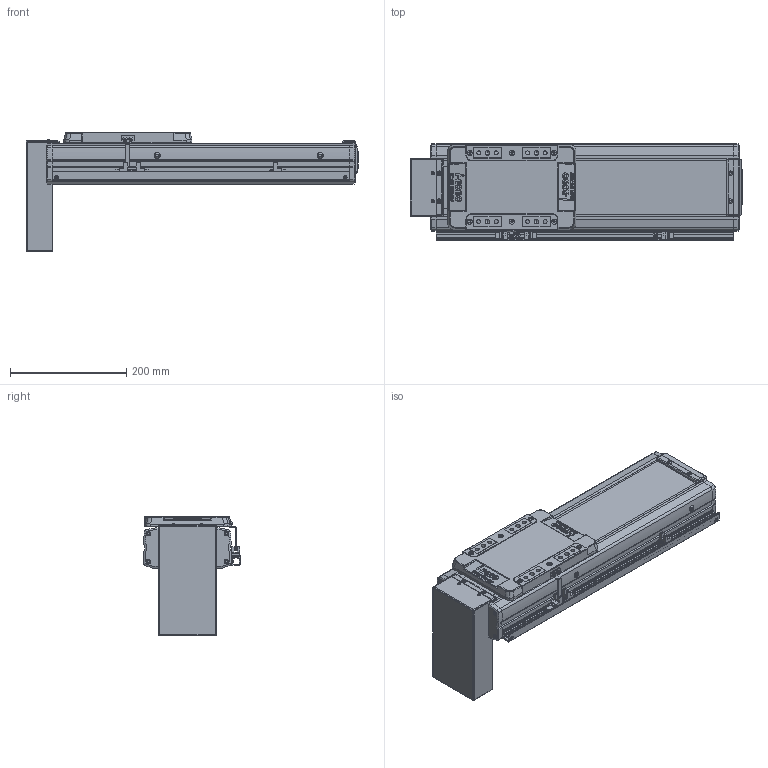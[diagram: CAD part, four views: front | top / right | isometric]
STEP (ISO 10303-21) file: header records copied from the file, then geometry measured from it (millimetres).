
FILE_DESCRIPTION(('STEP AP214'),'1');
FILE_NAME('Z:/Web/3D/SAN150/2013.04 (STP.)/SAN150ㅁㅁ-250PB+3SR.stp','2013-05-08T02:34:00',(' '),(' '),'Spatial InterOp 3D',' ',' ');
FILE_SCHEMA(('automotive_design'));
Length unit declared in the file: millimetre
Products named in the file (58): SLBL-SAN150; SLCV-SAN150; FHCS M4.0 x 8.0; BHCS M4.0 x 10.0; SFX-SAN150; RRCV-SAN150; FRBL-SAN150; Spacer; RN15; FRCV-SAN150; Screw 20; BASE-SAN150-000L ; SUS COVER; 스크루 : Round - M5.0 x 6.0; PB; 스크루 : Round - M3.0 x 6.0; M3.0 x 6.0; SRL-16x17-360L; SGD-SAN150; EE-SX674; SBK-SX674-352
Bounding box: 570 x 166 x 205.4 mm (x, y, z)
Volume: 4306070.2 mm3; surface area: 784828.2 mm2
Topology: 58 solids, 58 shells, 2538 faces, 6517 edges, 4198 vertices
Faces by surface type: plane 1382, cylinder 801, cone 242, sphere 80, bspline 21, torus 12
Entity records: 100126 total; most frequent: CARTESIAN_POINT 15589, DIRECTION 13784, ORIENTED_EDGE 12842, EDGE_CURVE 6421, AXIS2_PLACEMENT_3D 4864, VERTEX_POINT 4198, LINE 4056, VECTOR 4056
